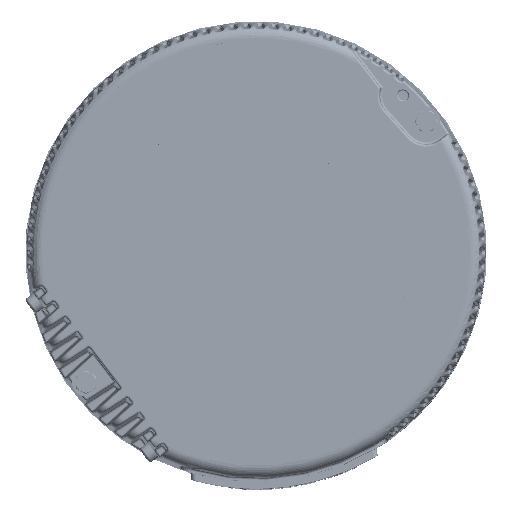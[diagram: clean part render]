
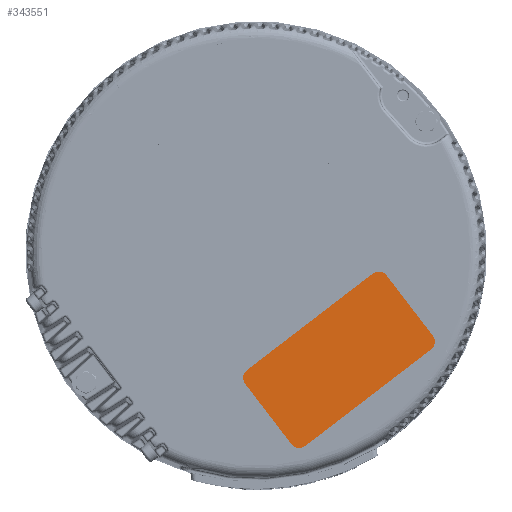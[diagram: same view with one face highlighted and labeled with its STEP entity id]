
A CAD part, top view. The second image highlights one B-rep face of the part: STEP entity #343551.
In plain terms, the highlighted planar face has unit normal (0, 0, 1).
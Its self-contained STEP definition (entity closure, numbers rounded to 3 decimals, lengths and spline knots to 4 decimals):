
#3075 = DIRECTION ( 'NONE',  ( 0.793, 0.609, 0. ) ) ;
#9123 = EDGE_CURVE ( 'NONE', #365556, #295591, #79813, .T. ) ;
#17342 = EDGE_CURVE ( 'NONE', #295591, #360944, #303769, .T. ) ;
#23397 = VERTEX_POINT ( 'NONE', #26878 ) ;
#23920 = LINE ( 'NONE', #114639, #361885 ) ;
#26878 = CARTESIAN_POINT ( 'NONE',  ( 1.5812, -0.2866, 5.765 ) ) ;
#30780 = EDGE_CURVE ( 'NONE', #185785, #322394, #84870, .T. ) ;
#35998 = EDGE_CURVE ( 'NONE', #23397, #182253, #294211, .T. ) ;
#39347 = CARTESIAN_POINT ( 'NONE',  ( 0.4277, -2.3314, 5.765 ) ) ;
#41838 = VECTOR ( 'NONE', #252619, 39.3701 ) ;
#48047 = CARTESIAN_POINT ( 'NONE',  ( 1.413, -0.2645, 5.765 ) ) ;
#61037 = EDGE_LOOP ( 'NONE', ( #94258, #138581, #217903, #349739, #316146, #117109, #358419, #68310 ) ) ;
#68310 = ORIENTED_EDGE ( 'NONE', *, *, #197848, .T. ) ;
#72351 = CARTESIAN_POINT ( 'NONE',  ( 2.1413, -1.0165, 5.765 ) ) ;
#77342 = CARTESIAN_POINT ( 'NONE',  ( 1.486, -0.3597, 5.765 ) ) ;
#79813 = CIRCLE ( 'NONE', #375723, 0.12 ) ;
#84870 = CIRCLE ( 'NONE', #165054, 0.12 ) ;
#94258 = ORIENTED_EDGE ( 'NONE', *, *, #30780, .T. ) ;
#99544 = CARTESIAN_POINT ( 'NONE',  ( -0.1102, -1.4333, 5.765 ) ) ;
#106197 = CARTESIAN_POINT ( 'NONE',  ( -0.0372, -1.5285, 5.765 ) ) ;
#107013 = EDGE_CURVE ( 'NONE', #322394, #23397, #263297, .T. ) ;
#112729 = DIRECTION ( 'NONE',  ( 0.793, 0.609, 0. ) ) ;
#113341 = CIRCLE ( 'NONE', #261251, 0.12 ) ;
#114639 = CARTESIAN_POINT ( 'NONE',  ( 2.1192, -1.1848, 5.765 ) ) ;
#115343 = DIRECTION ( 'NONE',  ( 0.793, 0.609, 0. ) ) ;
#117109 = ORIENTED_EDGE ( 'NONE', *, *, #17342, .T. ) ;
#136502 = CARTESIAN_POINT ( 'NONE',  ( 1.413, -0.2645, 5.765 ) ) ;
#138581 = ORIENTED_EDGE ( 'NONE', *, *, #107013, .T. ) ;
#139709 = DIRECTION ( 'NONE',  ( 0.793, 0.609, 0. ) ) ;
#149023 = CARTESIAN_POINT ( 'NONE',  ( 0.5959, -2.3536, 5.765 ) ) ;
#149755 = FACE_OUTER_BOUND ( 'NONE', #61037, .T. ) ;
#151846 = EDGE_CURVE ( 'NONE', #360944, #293010, #113341, .T. ) ;
#165054 = AXIS2_PLACEMENT_3D ( 'NONE', #203262, #170532, #139709 ) ;
#170532 = DIRECTION ( 'NONE',  ( 0., 0., 1. ) ) ;
#176808 = DIRECTION ( 'NONE',  ( 0., 0., -1. ) ) ;
#182253 = VERTEX_POINT ( 'NONE', #136502 ) ;
#185432 = DIRECTION ( 'NONE',  ( 0., 0., 1. ) ) ;
#185457 = CARTESIAN_POINT ( 'NONE',  ( -0.1324, -1.6016, 5.765 ) ) ;
#185785 = VERTEX_POINT ( 'NONE', #353550 ) ;
#191164 = DIRECTION ( 'NONE',  ( 0.793, 0.609, 0. ) ) ;
#193922 = DIRECTION ( 'NONE',  ( 0., 0., 1. ) ) ;
#197848 = EDGE_CURVE ( 'NONE', #293010, #185785, #23920, .T. ) ;
#198617 = AXIS2_PLACEMENT_3D ( 'NONE', #240431, #176808, #3075 ) ;
#203262 = CARTESIAN_POINT ( 'NONE',  ( 2.0461, -1.0896, 5.765 ) ) ;
#217903 = ORIENTED_EDGE ( 'NONE', *, *, #35998, .T. ) ;
#240431 = CARTESIAN_POINT ( 'NONE',  ( 2.0461, -1.0896, 5.765 ) ) ;
#252465 = VECTOR ( 'NONE', #274795, 39.3701 ) ;
#252619 = DIRECTION ( 'NONE',  ( -0.793, -0.609, 0. ) ) ;
#259378 = VECTOR ( 'NONE', #315514, 39.3701 ) ;
#261251 = AXIS2_PLACEMENT_3D ( 'NONE', #369672, #193922, #282751 ) ;
#263297 = LINE ( 'NONE', #353997, #259378 ) ;
#274795 = DIRECTION ( 'NONE',  ( 0.609, -0.793, 0. ) ) ;
#282751 = DIRECTION ( 'NONE',  ( -0.793, -0.609, 0. ) ) ;
#288176 = AXIS2_PLACEMENT_3D ( 'NONE', #77342, #379724, #115343 ) ;
#293010 = VERTEX_POINT ( 'NONE', #149023 ) ;
#294211 = CIRCLE ( 'NONE', #288176, 0.12 ) ;
#295591 = VERTEX_POINT ( 'NONE', #185457 ) ;
#303769 = LINE ( 'NONE', #39347, #252465 ) ;
#309805 = CARTESIAN_POINT ( 'NONE',  ( 0.4277, -2.3314, 5.765 ) ) ;
#315514 = DIRECTION ( 'NONE',  ( -0.609, 0.793, 0. ) ) ;
#316146 = ORIENTED_EDGE ( 'NONE', *, *, #9123, .T. ) ;
#322394 = VERTEX_POINT ( 'NONE', #72351 ) ;
#325418 = PLANE ( 'NONE',  #198617 ) ;
#339512 = LINE ( 'NONE', #48047, #41838 ) ;
#343551 = ADVANCED_FACE ( 'NONE', ( #149755 ), #325418, .F. ) ;
#349739 = ORIENTED_EDGE ( 'NONE', *, *, #376635, .T. ) ;
#353550 = CARTESIAN_POINT ( 'NONE',  ( 2.1192, -1.1848, 5.765 ) ) ;
#353997 = CARTESIAN_POINT ( 'NONE',  ( 2.1413, -1.0165, 5.765 ) ) ;
#358419 = ORIENTED_EDGE ( 'NONE', *, *, #151846, .T. ) ;
#360944 = VERTEX_POINT ( 'NONE', #309805 ) ;
#361885 = VECTOR ( 'NONE', #112729, 39.3701 ) ;
#365556 = VERTEX_POINT ( 'NONE', #99544 ) ;
#369672 = CARTESIAN_POINT ( 'NONE',  ( 0.5229, -2.2584, 5.765 ) ) ;
#375723 = AXIS2_PLACEMENT_3D ( 'NONE', #106197, #185432, #191164 ) ;
#376635 = EDGE_CURVE ( 'NONE', #182253, #365556, #339512, .T. ) ;
#379724 = DIRECTION ( 'NONE',  ( 0., 0., 1. ) ) ;
